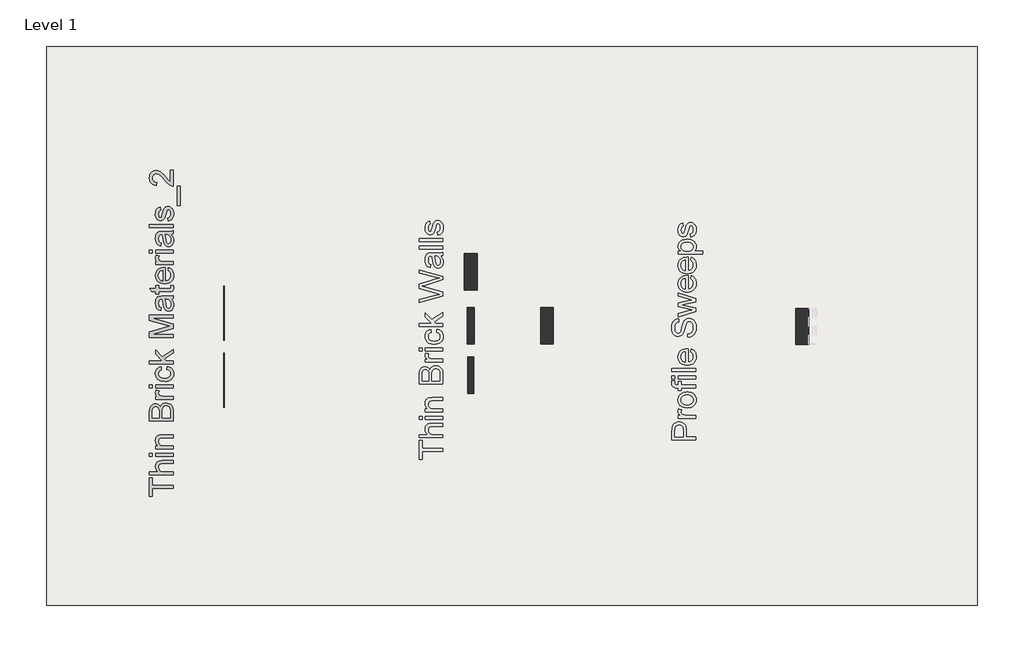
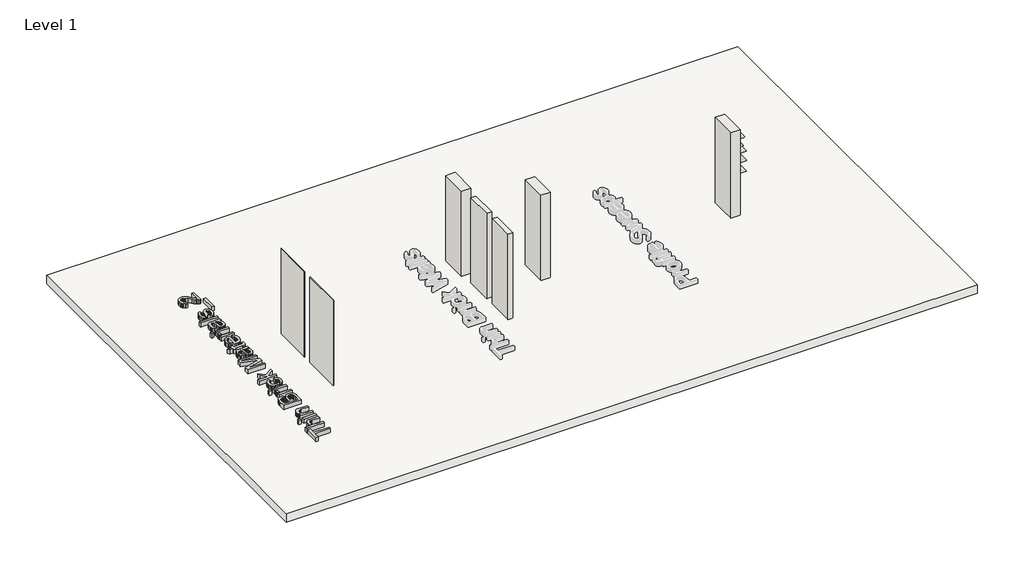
# One storey, part 1 of 2: 7 walls, 1 proxy, 1 slab.
"""IFC4 building model written with IfcOpenShell, lengths in millimetres."""

from ifc_helpers import new_model, si_unit, frame, origin, origin_with_axes, place, context, project, spatial, polyline, outline, extrude, element, save

model = new_model("IFC4")

# Units and contexts
model_context = context("Model", 3, world=origin())
ifc_project = project(units=[si_unit("LENGTHUNIT", "METRE", prefix="MILLI")], contexts=[model_context])

# Site, building, storey
site = spatial("IfcSite", under=ifc_project)
building = spatial("IfcBuilding", under=site)
storey = spatial("IfcBuildingStorey", under=building, Name="Level 1", Elevation=0.0)

# Proxy
placement = place(None, origin())
element("IfcBuildingElementProxy", 1, Name="24\" Arial", ObjectType="24\" Arial", at=placement, inside=storey, context=model_context, shape_type="SweptSolid", body=[
    extrude(outline(polyline([(-23081.6010495, 10693.8912356), (-23606.7948957, 10693.8912356), (-23606.7948957, 10496.9435433), (-23681.822588, 10496.9435433), (-23681.822588, 10965.8666202), (-23606.7948957, 10965.8666202), (-23606.7948957, 10768.9189279), (-23081.6010495, 10768.9189279), (-23081.6010495, 10693.8912356)])), origin_with_axes(), (0.0, 0.0, 1.0), 152.4),
    extrude(outline(polyline([(-23081.6010495, 11040.8943125), (-23681.822588, 11040.8943125), (-23681.822588, 11115.9220048), (-23461.1356649, 11115.9220048), (-23492.036963, 11143.4803942), (-23514.1093188, 11174.4274856), (-23527.3527322, 11208.7632788), (-23531.7672034, 11246.487774), (-23526.9497515, 11291.8047933), (-23512.4973957, 11330.7473894), (-23489.5458091, 11361.4105625), (-23459.2306649, 11381.8893125), (-23417.5771072, 11393.4292163), (-23360.6102803, 11397.275851), (-23081.6010495, 11397.275851), (-23081.6010495, 11322.2481587), (-23352.8437418, 11322.2481587), (-23378.1765784, 11320.7552981), (-23399.8093188, 11316.2767163), (-23417.741963, 11308.8124135), (-23431.9745111, 11298.3623894), (-23442.8091986, 11285.1739279), (-23450.5482611, 11269.4943125), (-23455.1916986, 11251.3235433), (-23456.7395111, 11230.6616202), (-23452.5631649, 11198.9543606), (-23440.0341265, 11169.1887356), (-23420.361338, 11144.5336394), (-23394.7537418, 11128.1579663), (-23360.7201841, 11118.9809952), (-23315.7695111, 11115.9220048), (-23081.6010495, 11115.9220048), (-23081.6010495, 11040.8943125)])), origin_with_axes(), (0.0, 0.0, 1.0), 152.4),
    extrude(outline(polyline([(-23081.6010495, 11500.4389279), (-23522.3887418, 11500.4389279), (-23522.3887418, 11575.4666202), (-23081.6010495, 11575.4666202), (-23081.6010495, 11500.4389279)])), origin_with_axes(), (0.0, 0.0, 1.0), 152.4),
    extrude(outline(polyline([(-23606.7948957, 11500.4389279), (-23681.822588, 11500.4389279), (-23681.822588, 11575.4666202), (-23606.7948957, 11575.4666202), (-23606.7948957, 11500.4389279)])), origin_with_axes(), (0.0, 0.0, 1.0), 152.4),
    extrude(outline(polyline([(-23081.6010495, 11688.0081587), (-23522.3887418, 11688.0081587), (-23522.3887418, 11763.035851), (-23460.842588, 11763.035851), (-23491.8721072, 11789.1013798), (-23514.0360495, 11820.4056587), (-23527.3344149, 11856.9486875), (-23531.7672034, 11898.7304663), (-23528.1953284, 11935.7131106), (-23517.4797034, 11969.5818125), (-23500.9574918, 11997.827101), (-23479.9658572, 12017.9395048), (-23454.5597515, 12031.585899), (-23424.7941265, 12040.4331587), (-23352.257588, 12044.3896971), (-23081.6010495, 12044.3896971), (-23081.6010495, 11969.3620048), (-23342.1464341, 11969.3620048), (-23380.9424918, 11967.2005625), (-23408.5283572, 11960.7162356), (-23428.2927322, 11948.7550337), (-23443.6243188, 11930.1629663), (-23453.460713, 11906.332149), (-23456.7395111, 11878.6546971), (-23454.8986216, 11855.8725457), (-23449.3759534, 11834.711476), (-23440.1715063, 11815.171488), (-23427.2852803, 11797.2525817), (-23409.2518909, 11782.282762), (-23384.6059534, 11771.5900337), (-23353.3474678, 11765.1743966), (-23315.4764341, 11763.035851), (-23081.6010495, 11763.035851), (-23081.6010495, 11688.0081587)])), origin_with_axes(), (0.0, 0.0, 1.0), 152.4),
    extrude(outline(polyline([(-23081.6010495, 12391.392774), (-23681.822588, 12391.392774), (-23681.822588, 12620.4323894), (-23677.4081168, 12683.4256106), (-23664.1647034, 12732.6075817), (-23654.1497154, 12752.6009231), (-23641.7626361, 12770.304601), (-23627.0034654, 12785.7186154), (-23609.8722034, 12798.8429663), (-23572.3583572, 12816.8122452), (-23533.0860495, 12822.8020048), (-23496.9460015, 12817.7647452), (-23462.9673957, 12802.6529663), (-23433.2384053, 12777.3567644), (-23409.8472034, 12741.7662356), (-23400.1939822, 12764.4110072), (-23387.6466265, 12784.2807067), (-23372.2051361, 12801.3753341), (-23353.8695111, 12815.6948894), (-23333.1984293, 12827.0104063), (-23310.7505688, 12835.0929183), (-23286.5259293, 12839.9424255), (-23260.5245111, 12841.5589279), (-23218.669463, 12837.1444567), (-23179.855088, 12823.9010433), (-23146.8472995, 12804.1366683), (-23122.4120111, 12780.1593125), (-23104.7174918, 12750.7966683), (-23091.9320111, 12714.8764279), (-23084.1837899, 12671.2262837), (-23081.6010495, 12618.6739279), (-23081.6010495, 12391.392774)]), holes=[polyline([(-23156.6287418, 12466.4204663), (-23156.6287418, 12620.285851), (-23159.5595111, 12675.9704663), (-23166.0621553, 12701.8161875), (-23175.8985495, 12723.0825817), (-23189.9845591, 12740.3741202), (-23209.2360495, 12754.295274), (-23232.7921072, 12763.4722452), (-23259.7918188, 12766.5312356), (-23291.1510495, 12762.9410433), (-23318.1141265, 12752.1704663), (-23339.1973476, 12733.3585913), (-23352.9170111, 12705.6445048), (-23360.4454245, 12666.3905144), (-23362.9548957, 12612.9589279), (-23362.9548957, 12466.4204663), (-23156.6287418, 12466.4204663)]), polyline([(-23437.982588, 12466.4204663), (-23437.982588, 12603.4339279), (-23439.5945111, 12651.3520048), (-23444.4302803, 12683.4439279), (-23455.5488861, 12711.4510913), (-23472.1993188, 12731.5818125), (-23494.1251361, 12743.7261875), (-23521.0698957, 12747.7743125), (-23547.2270111, 12744.0009471), (-23570.0137418, 12732.680851), (-23587.7998476, 12714.3269087), (-23598.955088, 12689.4520048), (-23604.8349438, 12651.2787356), (-23606.7948957, 12593.0296971), (-23606.7948957, 12466.4204663), (-23437.982588, 12466.4204663)])]), origin_with_axes(), (0.0, 0.0, 1.0), 152.4),
    extrude(outline(polyline([(-23081.6010495, 12935.3435433), (-23522.3887418, 12935.3435433), (-23522.3887418, 13000.992774), (-23457.1791265, 13000.992774), (-23494.9860495, 13025.2448894), (-23517.2598957, 13047.5920048), (-23528.1403765, 13070.0123894), (-23531.7672034, 13094.4843125), (-23525.9789341, 13131.8516202), (-23508.6141265, 13169.8050817), (-23441.3529726, 13144.7470048), (-23452.8928765, 13118.3700817), (-23456.7395111, 13091.9931587), (-23453.0394149, 13069.5910913), (-23441.9391265, 13049.570274), (-23424.2812418, 13033.3960913), (-23400.9083572, 13022.5339279), (-23358.9983572, 13013.4119087), (-23313.2783572, 13010.3712356), (-23081.6010495, 13010.3712356), (-23081.6010495, 12935.3435433)])), origin_with_axes(), (0.0, 0.0, 1.0), 152.4),
    extrude(outline(polyline([(-23081.6010495, 13216.6973894), (-23522.3887418, 13216.6973894), (-23522.3887418, 13291.7250817), (-23081.6010495, 13291.7250817), (-23081.6010495, 13216.6973894)])), origin_with_axes(), (0.0, 0.0, 1.0), 152.4),
    extrude(outline(polyline([(-23606.7948957, 13216.6973894), (-23681.822588, 13216.6973894), (-23681.822588, 13291.7250817), (-23606.7948957, 13291.7250817), (-23606.7948957, 13216.6973894)])), origin_with_axes(), (0.0, 0.0, 1.0), 152.4),
    extrude(outline(polyline([(-23241.0348957, 13685.6204663), (-23231.6564341, 13760.6481587), (-23196.2536577, 13752.4877981), (-23164.9264822, 13739.7297933), (-23137.6749077, 13722.3741442), (-23114.4989341, 13700.420851), (-23096.0030327, 13674.7949375), (-23082.7916745, 13646.4214279), (-23074.8648596, 13615.3003221), (-23072.222588, 13581.4316202), (-23075.9089462, 13539.3521851), (-23086.9680207, 13501.6231106), (-23105.3998116, 13468.2443966), (-23131.2043188, 13439.2160433), (-23163.8961337, 13415.7195168), (-23202.9898476, 13398.9362837), (-23248.4854606, 13388.8663438), (-23300.3829726, 13385.5096971), (-23367.1495591, 13391.2430144), (-23397.1945231, 13398.4096611), (-23425.0139341, 13408.4429663), (-23450.0491144, 13421.4116202), (-23471.7413861, 13437.3843125), (-23490.0907491, 13456.3610433), (-23505.0972034, 13478.3418125), (-23516.7653284, 13502.3329063), (-23525.0997034, 13527.3406106), (-23530.1003284, 13553.3649255), (-23531.7672034, 13580.405851), (-23529.4775399, 13613.6929784), (-23522.6085495, 13643.8020529), (-23511.1602322, 13670.7330745), (-23495.132588, 13694.4860433), (-23474.891963, 13714.6579784), (-23450.8047034, 13730.845899), (-23422.8708091, 13743.0498053), (-23391.0902803, 13751.2696971), (-23381.7118188, 13676.2420048), (-23414.4448476, 13662.6322452), (-23437.9093188, 13641.4391202), (-23452.031963, 13613.8349375), (-23456.7395111, 13580.9920048), (-23454.4223716, 13555.4988918), (-23447.4709534, 13532.5060913), (-23435.8852563, 13512.0136034), (-23419.6652803, 13494.0214279), (-23398.4355207, 13479.3721611), (-23371.8204726, 13468.908399), (-23339.8201361, 13462.6301418), (-23302.4345111, 13460.5373894), (-23264.4856289, 13462.5843486), (-23232.1143668, 13468.725226), (-23205.320725, 13478.9600216), (-23184.1047034, 13493.2887356), (-23167.9808933, 13510.9237236), (-23156.4638861, 13531.0773413), (-23149.5536817, 13553.7495889), (-23147.2502803, 13578.9404663), (-23153.0019149, 13617.791476), (-23160.1914582, 13634.5930264), (-23170.2568188, 13649.645274), (-23183.3079005, 13662.5269207), (-23199.4546072, 13672.8166683), (-23218.696939, 13680.5145168), (-23241.0348957, 13685.6204663)])), origin_with_axes(), (0.0, 0.0, 1.0), 152.4),
    extrude(outline(polyline([(-23081.6010495, 13826.2973894), (-23681.822588, 13826.2973894), (-23681.822588, 13901.3250817), (-23359.2914341, 13901.3250817), (-23522.3887418, 14069.5512356), (-23522.3887418, 14173.3004663), (-23357.2398957, 14003.022774), (-23081.6010495, 14182.6789279), (-23081.6010495, 14095.0489279), (-23305.0722034, 13949.2431587), (-23258.6195111, 13901.3250817), (-23081.6010495, 13901.3250817), (-23081.6010495, 13826.2973894)])), origin_with_axes(), (0.0, 0.0, 1.0), 152.4),
    extrude(outline(polyline([(-23081.6010495, 14492.1681587), (-23681.822588, 14492.1681587), (-23681.822588, 14621.2685433), (-23258.7660495, 14744.067774), (-23170.4033572, 14768.832774), (-23266.0929726, 14795.6493125), (-23681.822588, 14916.3970048), (-23681.822588, 15045.4973894), (-23081.6010495, 15045.4973894), (-23081.6010495, 14970.4696971), (-23606.7948957, 14970.4696971), (-23081.6010495, 14819.6816202), (-23081.6010495, 14717.9839279), (-23606.7948957, 14567.195851), (-23081.6010495, 14567.195851), (-23081.6010495, 14492.1681587)])), origin_with_axes(), (0.0, 0.0, 1.0), 152.4),
    extrude(outline(polyline([(-23137.8718188, 15448.7712356), (-23107.1353765, 15412.9242644), (-23087.0229726, 15376.0148894), (-23075.9226841, 15337.2005144), (-23072.222588, 15295.6385433), (-23074.4481409, 15262.2323534), (-23081.1247995, 15232.938399), (-23092.252564, 15207.7566803), (-23107.8314341, 15186.6871971), (-23126.8722755, 15170.0505024), (-23148.3859534, 15158.167149), (-23172.3724678, 15151.037137), (-23198.8318188, 15148.6604663), (-23229.9346072, 15152.2506587), (-23258.1798957, 15163.0212356), (-23282.3587418, 15179.6350337), (-23301.2622034, 15200.7548894), (-23315.5497034, 15225.5748413), (-23325.8806649, 15253.2889279), (-23337.1641265, 15318.2054663), (-23349.0337418, 15394.918351), (-23362.9548957, 15448.3316202), (-23379.6602803, 15448.7712356), (-23413.1443188, 15443.6057548), (-23425.5451361, 15437.1489038), (-23435.0518188, 15428.1093125), (-23444.5401841, 15412.484649), (-23451.317588, 15393.4529663), (-23456.7395111, 15345.1685433), (-23453.1310015, 15300.4743125), (-23442.3054726, 15269.2616202), (-23422.2846553, 15247.9769087), (-23391.0902803, 15233.0666202), (-23400.4687418, 15158.0389279), (-23441.4995111, 15171.0625337), (-23473.7379726, 15190.4971971), (-23498.3930688, 15218.1563317), (-23516.6737418, 15255.853351), (-23527.993838, 15301.9580144), (-23531.7672034, 15354.8400817), (-23528.4334534, 15405.5607067), (-23518.4322034, 15445.7671971), (-23503.3936938, 15476.0823413), (-23484.9481649, 15497.1289279), (-23462.1431168, 15511.0867163), (-23434.0260495, 15520.1354663), (-23368.3768188, 15523.7989279), (-23275.0318188, 15523.7989279), (-23144.6858572, 15527.6089279), (-23112.465713, 15533.2506587), (-23081.6010495, 15542.555851), (-23081.6010495, 15467.5281587), (-23107.6848957, 15455.5120048), (-23137.8718188, 15448.7712356)]), holes=[polyline([(-23287.9272034, 15448.7712356), (-23275.4347995, 15398.3620048), (-23264.9206649, 15327.7304663), (-23252.7579726, 15263.180274), (-23244.4419149, 15246.3833029), (-23232.9752803, 15233.945851), (-23219.2372995, 15226.2525817), (-23204.1072034, 15223.6881587), (-23181.7967226, 15229.2749375), (-23163.5160495, 15246.035274), (-23151.3167226, 15273.6028221), (-23147.2502803, 15311.6112356), (-23151.7380207, 15351.9093125), (-23165.2012418, 15387.5181587), (-23185.0388861, 15416.3862356), (-23208.6498957, 15436.4620048), (-23232.9752803, 15445.3642163), (-23266.6791265, 15448.3316202), (-23287.9272034, 15448.7712356)])]), origin_with_axes(), (0.0, 0.0, 1.0), 152.4),
    extrude(outline(polyline([(-23144.1729726, 15786.395851), (-23079.4029726, 15795.7743125), (-23072.222588, 15739.6500817), (-23075.3365303, 15703.6382548), (-23084.6783572, 15676.7850817), (-23099.0757611, 15657.808351), (-23117.3564341, 15645.425851), (-23148.7522995, 15638.6118125), (-23202.4952803, 15636.3404663), (-23447.3610495, 15636.3404663), (-23447.3610495, 15580.0696971), (-23522.3887418, 15580.0696971), (-23522.3887418, 15636.3404663), (-23629.5083572, 15636.3404663), (-23673.6164341, 15711.3681587), (-23522.3887418, 15711.3681587), (-23522.3887418, 15786.395851), (-23447.3610495, 15786.395851), (-23447.3610495, 15711.3681587), (-23204.6933572, 15711.3681587), (-23166.0072034, 15715.3246971), (-23152.3058572, 15728.1468125), (-23148.5141745, 15738.9723413), (-23147.2502803, 15753.717774), (-23144.1729726, 15786.395851)])), origin_with_axes(), (0.0, 0.0, 1.0), 152.4),
    extrude(outline(polyline([(-23212.8995111, 16170.0335433), (-23203.5210495, 16243.595851), (-23174.0576601, 16232.3169688), (-23148.0928765, 16217.0907067), (-23125.6266986, 16197.9170649), (-23106.6591265, 16174.7960433), (-23091.5931409, 16147.9657668), (-23080.8317226, 16117.6643606), (-23074.3748716, 16083.8918245), (-23072.222588, 16046.6481587), (-23075.9364221, 16000.0947212), (-23087.0779245, 15958.6151779), (-23105.6470952, 15922.2095288), (-23131.6439341, 15890.877774), (-23164.3449077, 15865.6823173), (-23203.0264822, 15847.6855625), (-23247.6886577, 15836.8875096), (-23298.3314341, 15833.2881587), (-23350.6914582, 15836.9241442), (-23396.8419149, 15847.832101), (-23436.7828043, 15866.0120288), (-23470.5141265, 15891.4639279), (-23497.3123476, 15922.7132548), (-23516.4539341, 15958.2854663), (-23527.9388861, 15998.1805625), (-23531.7672034, 16042.3985433), (-23527.9480447, 16085.1923534), (-23516.4905688, 16123.8922452), (-23497.3947755, 16158.4982188), (-23470.6606649, 16189.010274), (-23437.002612, 16213.9172332), (-23397.1349918, 16231.7079183), (-23351.0578043, 16242.3823293), (-23298.7710495, 16245.9404663), (-23278.5487418, 16245.500851), (-23278.5487418, 15908.315851), (-23248.6091024, 15912.6616322), (-23222.3878765, 15921.3028221), (-23199.885064, 15934.2394207), (-23181.1006649, 15951.4714279), (-23166.2911216, 15972.0463438), (-23155.7128765, 15995.0116683), (-23149.3659293, 16020.3674014), (-23147.2502803, 16048.1135433), (-23151.1701841, 16088.045274), (-23162.9298957, 16121.675851), (-23183.2621072, 16149.005274), (-23212.8995111, 16170.0335433)]), holes=[polyline([(-23353.5764341, 15908.315851), (-23353.5764341, 16170.912774), (-23393.215088, 16160.7649856), (-23408.8031168, 16152.0367885), (-23421.5702803, 16140.8723894), (-23436.9568188, 16120.4119567), (-23447.9472034, 16097.1306587), (-23454.5414341, 16071.0284952), (-23456.7395111, 16042.1054663), (-23454.9856289, 16015.7239639), (-23449.7239822, 15991.5313798), (-23440.9545712, 15969.5277139), (-23428.6773957, 15949.7129663), (-23413.4602923, 15933.0854303), (-23395.8710976, 15920.643399), (-23375.9098116, 15912.3868726), (-23353.5764341, 15908.315851)])]), origin_with_axes(), (0.0, 0.0, 1.0), 152.4),
    extrude(outline(polyline([(-23081.6010495, 16320.9681587), (-23522.3887418, 16320.9681587), (-23522.3887418, 16386.6173894), (-23457.1791265, 16386.6173894), (-23494.9860495, 16410.8695048), (-23517.2598957, 16433.2166202), (-23528.1403765, 16455.6370048), (-23531.7672034, 16480.1089279), (-23525.9789341, 16517.4762356), (-23508.6141265, 16555.4296971), (-23441.3529726, 16530.3716202), (-23452.8928765, 16503.9946971), (-23456.7395111, 16477.617774), (-23453.0394149, 16455.2157067), (-23441.9391265, 16435.1948894), (-23424.2812418, 16419.0207067), (-23400.9083572, 16408.1585433), (-23358.9983572, 16399.036524), (-23313.2783572, 16395.995851), (-23081.6010495, 16395.995851), (-23081.6010495, 16320.9681587)])), origin_with_axes(), (0.0, 0.0, 1.0), 152.4),
    extrude(outline(polyline([(-23081.6010495, 16602.3220048), (-23522.3887418, 16602.3220048), (-23522.3887418, 16677.3496971), (-23081.6010495, 16677.3496971), (-23081.6010495, 16602.3220048)])), origin_with_axes(), (0.0, 0.0, 1.0), 152.4),
    extrude(outline(polyline([(-23606.7948957, 16602.3220048), (-23681.822588, 16602.3220048), (-23681.822588, 16677.3496971), (-23606.7948957, 16677.3496971), (-23606.7948957, 16602.3220048)])), origin_with_axes(), (0.0, 0.0, 1.0), 152.4),
    extrude(outline(polyline([(-23137.8718188, 17071.2450817), (-23107.1353765, 17035.3981106), (-23087.0229726, 16998.4887356), (-23075.9226841, 16959.6743606), (-23072.222588, 16918.1123894), (-23074.4481409, 16884.7061995), (-23081.1247995, 16855.4122452), (-23092.252564, 16830.2305264), (-23107.8314341, 16809.1610433), (-23126.8722755, 16792.5243486), (-23148.3859534, 16780.6409952), (-23172.3724678, 16773.5109832), (-23198.8318188, 16771.1343125), (-23229.9346072, 16774.7245048), (-23258.1798957, 16785.4950817), (-23282.3587418, 16802.1088798), (-23301.2622034, 16823.2287356), (-23315.5497034, 16848.0486875), (-23325.8806649, 16875.762774), (-23337.1641265, 16940.6793125), (-23349.0337418, 17017.3921971), (-23362.9548957, 17070.8054663), (-23379.6602803, 17071.2450817), (-23413.1443188, 17066.079601), (-23425.5451361, 17059.62275), (-23435.0518188, 17050.5831587), (-23444.5401841, 17034.9584952), (-23451.317588, 17015.9268125), (-23456.7395111, 16967.6423894), (-23453.1310015, 16922.9481587), (-23442.3054726, 16891.7354663), (-23422.2846553, 16870.4507548), (-23391.0902803, 16855.5404663), (-23400.4687418, 16780.512774), (-23441.4995111, 16793.5363798), (-23473.7379726, 16812.9710433), (-23498.3930688, 16840.6301779), (-23516.6737418, 16878.3271971), (-23527.993838, 16924.4318606), (-23531.7672034, 16977.3139279), (-23528.4334534, 17028.0345529), (-23518.4322034, 17068.2410433), (-23503.3936938, 17098.5561875), (-23484.9481649, 17119.602774), (-23462.1431168, 17133.5605625), (-23434.0260495, 17142.6093125), (-23368.3768188, 17146.272774), (-23275.0318188, 17146.272774), (-23144.6858572, 17150.082774), (-23112.465713, 17155.7245048), (-23081.6010495, 17165.0296971), (-23081.6010495, 17090.0020048), (-23107.6848957, 17077.985851), (-23137.8718188, 17071.2450817)]), holes=[polyline([(-23287.9272034, 17071.2450817), (-23275.4347995, 17020.835851), (-23264.9206649, 16950.2043125), (-23252.7579726, 16885.6541202), (-23244.4419149, 16868.857149), (-23232.9752803, 16856.4196971), (-23219.2372995, 16848.7264279), (-23204.1072034, 16846.1620048), (-23181.7967226, 16851.7487837), (-23163.5160495, 16868.5091202), (-23151.3167226, 16896.0766683), (-23147.2502803, 16934.0850817), (-23151.7380207, 16974.3831587), (-23165.2012418, 17009.9920048), (-23185.0388861, 17038.8600817), (-23208.6498957, 17058.935851), (-23232.9752803, 17067.8380625), (-23266.6791265, 17070.8054663), (-23287.9272034, 17071.2450817)])]), origin_with_axes(), (0.0, 0.0, 1.0), 152.4),
    extrude(outline(polyline([(-23081.6010495, 17249.435851), (-23681.822588, 17249.435851), (-23681.822588, 17324.4635433), (-23081.6010495, 17324.4635433), (-23081.6010495, 17249.435851)])), origin_with_axes(), (0.0, 0.0, 1.0), 152.4),
    extrude(outline(polyline([(-23212.8995111, 17408.8696971), (-23222.2779726, 17483.8973894), (-23205.1696072, 17488.4309231), (-23190.1860495, 17495.7303702), (-23177.3272995, 17505.7957308), (-23166.5933572, 17518.6270048), (-23158.1307611, 17534.2608269), (-23152.0860495, 17552.7338317), (-23147.2502803, 17598.1973894), (-23151.6830688, 17643.1114279), (-23157.2240543, 17660.5678221), (-23164.9814341, 17674.6904663), (-23184.2512418, 17693.3741202), (-23195.0401361, 17698.0450337), (-23206.5983572, 17699.6020048), (-23216.7278284, 17698.035875), (-23225.7216265, 17693.3374856), (-23240.3022034, 17674.5439279), (-23249.8272034, 17646.4451779), (-23261.6968188, 17597.3181587), (-23281.4978284, 17528.8480625), (-23298.4047034, 17484.3370048), (-23316.8502322, 17455.7436875), (-23341.2672034, 17435.0268125), (-23370.0986457, 17422.4428221), (-23401.787588, 17418.2481587), (-23430.8571553, 17421.6185433), (-23457.6920111, 17431.7296971), (-23481.2297515, 17447.6657548), (-23500.4079726, 17468.510851), (-23512.4790784, 17489.227726), (-23522.6085495, 17516.2091202), (-23529.4775399, 17547.4034952), (-23531.7672034, 17580.7593125), (-23528.0854245, 17629.5932548), (-23517.040088, 17672.052774), (-23499.7119149, 17706.1962356), (-23477.1816265, 17730.0820048), (-23447.7823476, 17745.9081587), (-23409.8472034, 17755.872774), (-23400.4687418, 17680.8450817), (-23424.0797515, 17671.3750337), (-23441.8658572, 17652.6364279), (-23453.0210976, 17624.4460913), (-23456.7395111, 17586.620851), (-23453.1859534, 17543.5385433), (-23442.5252803, 17514.8170048), (-23427.1387418, 17498.6611394), (-23409.407588, 17493.275851), (-23397.8676841, 17495.5105625), (-23387.5733572, 17502.2146971), (-23378.3780688, 17513.6813317), (-23371.0145111, 17530.2035433), (-23355.0418188, 17594.8270048), (-23319.7260495, 17704.9506587), (-23302.8374918, 17734.0385433), (-23279.7210495, 17756.0925817), (-23250.3034534, 17769.9954183), (-23214.5114341, 17774.6296971), (-23177.5104726, 17769.1894567), (-23142.707588, 17752.8687356), (-23112.8320591, 17726.2903221), (-23090.6131649, 17690.0770048), (-23076.8202322, 17646.335274), (-23072.222588, 17597.1716202), (-23074.4389822, 17556.7911154), (-23081.0881649, 17521.5211394), (-23092.1701361, 17491.3616923), (-23107.6848957, 17466.312774), (-23127.5591745, 17445.8523413), (-23151.7197034, 17429.458351), (-23180.1664822, 17417.1308029), (-23212.8995111, 17408.8696971)])), origin_with_axes(), (0.0, 0.0, 1.0), 152.4),
    extrude(outline(polyline([(-22912.7887418, 17793.3866202), (-22987.8164341, 17793.3866202), (-22987.8164341, 18281.0666202), (-22912.7887418, 18281.0666202), (-22912.7887418, 17793.3866202)])), origin_with_axes(), (0.0, 0.0, 1.0), 152.4),
    extrude(outline(polyline([(-23156.6287418, 18684.3404663), (-23081.6010495, 18684.3404663), (-23081.6010495, 18290.4450817), (-23108.0146072, 18292.0936394), (-23133.3291265, 18298.5046971), (-23173.7554245, 18317.0051779), (-23212.9727803, 18344.0781587), (-23254.0218668, 18383.2405625), (-23299.9433572, 18438.0093125), (-23371.8571072, 18518.9718125), (-23424.9406649, 18567.5493125), (-23446.6283572, 18581.71775), (-23468.0229726, 18591.8380625), (-23489.1245111, 18597.91025), (-23509.9329726, 18599.9343125), (-23529.5095952, 18598.0247332), (-23547.5017707, 18592.2959952), (-23563.9094991, 18582.7480986), (-23578.7327803, 18569.3810433), (-23591.0099558, 18552.9366803), (-23599.7793668, 18534.1568606), (-23605.0410135, 18513.0415841), (-23606.7948957, 18489.590851), (-23605.0822274, 18464.8853822), (-23599.9442226, 18442.7901298), (-23591.3808813, 18423.3050938), (-23579.3922034, 18406.430274), (-23564.3811697, 18392.7793005), (-23546.7507611, 18382.9658029), (-23526.5009774, 18376.9897813), (-23503.6318188, 18374.8512356), (-23513.0102803, 18299.8235433), (-23551.7422274, 18306.2758149), (-23585.5834534, 18318.0126298), (-23614.5339582, 18335.033988), (-23638.5937418, 18357.3398894), (-23657.506362, 18384.4174495), (-23671.0153765, 18415.7537837), (-23679.1207851, 18451.3488918), (-23681.822588, 18491.202774), (-23678.8185495, 18531.4138438), (-23669.8064341, 18567.2012837), (-23654.7862418, 18598.5650938), (-23633.7579726, 18625.505274), (-23608.2785976, 18647.1425938), (-23579.905088, 18662.5978221), (-23548.6374438, 18671.8709591), (-23514.4756649, 18674.9620048), (-23478.5920591, 18671.6282548), (-23443.3312418, 18661.6270048), (-23407.4659534, 18643.8775337), (-23369.7689341, 18617.2991202), (-23324.7633091, 18574.9311875), (-23266.9722034, 18509.8131587), (-23194.8020111, 18423.5020048), (-23156.6287418, 18389.6516202), (-23156.6287418, 18684.3404663)])), origin_with_axes(), (0.0, 0.0, 1.0), 152.4),
])

# Slab
element("IfcSlab", 2, ObjectType="Generic - 12\"", at=placement, inside=storey, context=model_context, shape_type="SweptSolid", body=[
    extrude(outline(polyline([(-2914.5016667, 21790.1814759), (-2914.5016667, 7769.3814759), (-26261.9480786, 7769.3814759), (-26261.9480786, 21790.1814759), (-2914.5016667, 21790.1814759)])), frame((0.0, 0.0, -304.8), z_axis=(0.0, 0.0, 1.0), x_axis=(1.0, 0.0, 0.0)), (0.0, 0.0, 1.0), 304.8),
])

# Walls
element("IfcWall", 3, ObjectType="Exterior-Wall_Thin-Brick-Veneer_on_Wood-Stud_Glen-Gery", at=placement, inside=storey, context=model_context, shape_type="SweptSolid", body=[
    extrude(outline(polyline([(-15538.5991851, 15243.7689783), (-15538.5991851, 14329.3689783), (-15706.8741851, 14329.3689783), (-15706.8741851, 15243.7689783), (-15538.5991851, 15243.7689783)])), origin_with_axes(), (0.0, 0.0, 1.0), 3048.0),
])
element("IfcWall", 4, ObjectType="Exterior-Wall_Thin-Brick-Veneer_on_Metal-Stud_Glen-Gery", at=placement, inside=storey, context=model_context, shape_type="SweptSolid", body=[
    extrude(outline(polyline([(-15541.7741851, 14000.6088679), (-15541.7741851, 13086.2088679), (-15703.6991851, 13086.2088679), (-15703.6991851, 14000.6088679), (-15541.7741851, 14000.6088679)])), origin_with_axes(), (0.0, 0.0, 1.0), 3048.0),
])
element("IfcWall", 5, ObjectType="Exterior-Wall_Thin-Brick-Veneer_on_CMU_Glen-Gery", at=placement, inside=storey, context=model_context, shape_type="SweptSolid", body=[
    extrude(outline(polyline([(-15462.3991851, 16591.4088679), (-15462.3991851, 15677.0088679), (-15783.0741851, 15677.0088679), (-15783.0741851, 16591.4088679), (-15462.3991851, 16591.4088679)])), origin_with_axes(), (0.0, 0.0, 1.0), 3048.0),
])
element("IfcWall", 6, ObjectType="Exterior-Wall_Thin-Brick-Veneer_on_Concrete_Glen-Gery", at=placement, inside=storey, context=model_context, shape_type="SweptSolid", body=[
    extrude(outline(polyline([(-13550.3312596, 15243.7689783), (-13550.3312596, 14329.3689783), (-13871.0062596, 14329.3689783), (-13871.0062596, 15243.7689783), (-13550.3312596, 15243.7689783)])), origin_with_axes(), (0.0, 0.0, 1.0), 3048.0),
])
element("IfcWall", 7, ObjectType="Exterior-Wall_Thin-Brick-Veneer_on_CMU_Glen-Gery", at=placement, inside=storey, context=model_context, shape_type="SweptSolid", body=[
    extrude(outline(polyline([(-7149.5312596, 15219.8088679), (-7149.5312596, 14305.4088679), (-7470.2062596, 14305.4088679), (-7470.2062596, 15219.8088679), (-7149.5312596, 15219.8088679)])), origin_with_axes(), (0.0, 0.0, 1.0), 3048.0),
])
element("IfcWall", 8, ObjectType="Generic - 1/2\" 102", at=placement, inside=storey, context=model_context, shape_type="SweptSolid", body=[
    extrude(outline(polyline([(-21813.0031026, 12730.6088679), (-21813.0031026, 14102.2088679), (-21800.3031026, 14102.2088679), (-21800.3031026, 12730.6088679), (-21813.0031026, 12730.6088679)])), origin_with_axes(), (0.0, 0.0, 1.0), 3048.0),
])
element("IfcWall", 9, ObjectType="Generic - 1/2\" 103", at=placement, inside=storey, context=model_context, shape_type="SweptSolid", body=[
    extrude(outline(polyline([(-21813.0031026, 14407.0088679), (-21813.0031026, 15778.6088679), (-21800.3031026, 15778.6088679), (-21800.3031026, 14407.0088679), (-21813.0031026, 14407.0088679)])), origin_with_axes(), (0.0, 0.0, 1.0), 3048.0),
])

save(model, "model.ifc")
